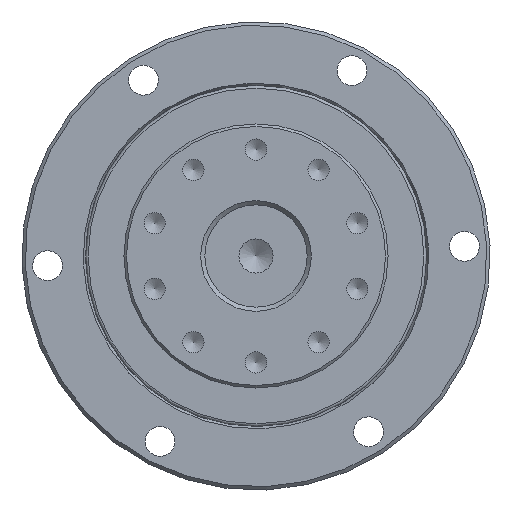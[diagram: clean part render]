
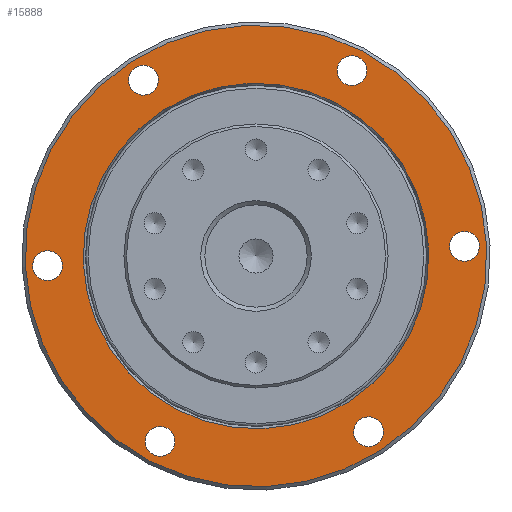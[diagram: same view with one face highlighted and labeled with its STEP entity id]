
A CAD part, left-side view. The second image highlights one B-rep face of the part: STEP entity #15888.
In plain terms, the highlighted planar face has unit normal (-1, 0, 0).
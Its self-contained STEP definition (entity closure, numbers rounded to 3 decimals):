
#11 = EDGE_LOOP ( 'NONE', ( #12843 ) ) ;
#661 = CARTESIAN_POINT ( 'NONE',  ( -16.954, 11.181, -23.506 ) ) ;
#908 = ORIENTED_EDGE ( 'NONE', *, *, #19773, .T. ) ;
#1050 = CARTESIAN_POINT ( 'NONE',  ( -16.954, -11.262, 21.758 ) ) ;
#1061 = CARTESIAN_POINT ( 'NONE',  ( -16.954, 24.394, -2.874 ) ) ;
#1989 = CARTESIAN_POINT ( 'NONE',  ( -16.954, 11.262, -21.758 ) ) ;
#2141 = AXIS2_PLACEMENT_3D ( 'NONE', #12652, #10921, #16331 ) ;
#2560 = FACE_BOUND ( 'NONE', #15958, .T. ) ;
#2700 = AXIS2_PLACEMENT_3D ( 'NONE', #11377, #3108, #19952 ) ;
#2782 = PLANE ( 'NONE',  #12416 ) ;
#3108 = DIRECTION ( 'NONE',  ( 1., 0., 0. ) ) ;
#3353 = AXIS2_PLACEMENT_3D ( 'NONE', #6988, #13825, #15354 ) ;
#3385 = CIRCLE ( 'NONE', #2700, 1.75 ) ;
#3583 = CIRCLE ( 'NONE', #18170, 1.75 ) ;
#3630 = EDGE_CURVE ( 'NONE', #16892, #16892, #6642, .T. ) ;
#3669 = VERTEX_POINT ( 'NONE', #5295 ) ;
#4075 = CARTESIAN_POINT ( 'NONE',  ( -16.954, 20.267, -0.932 ) ) ;
#4398 = DIRECTION ( 'NONE',  ( 1., 0., 0. ) ) ;
#5077 = AXIS2_PLACEMENT_3D ( 'NONE', #10483, #17099, #12014 ) ;
#5295 = CARTESIAN_POINT ( 'NONE',  ( -16.954, 1.246, 27.071 ) ) ;
#5709 = FACE_BOUND ( 'NONE', #19540, .T. ) ;
#5721 = VERTEX_POINT ( 'NONE', #1061 ) ;
#5792 = EDGE_LOOP ( 'NONE', ( #908 ) ) ;
#5963 = EDGE_CURVE ( 'NONE', #14703, #14703, #20008, .T. ) ;
#6642 = CIRCLE ( 'NONE', #2141, 1.75 ) ;
#6988 = CARTESIAN_POINT ( 'NONE',  ( -16.954, -13.212, -20.632 ) ) ;
#7660 = ORIENTED_EDGE ( 'NONE', *, *, #19010, .F. ) ;
#7785 = DIRECTION ( 'NONE',  ( 1., 0., 0. ) ) ;
#7993 = CIRCLE ( 'NONE', #14562, 1.75 ) ;
#8135 = EDGE_LOOP ( 'NONE', ( #9932 ) ) ;
#8884 = CARTESIAN_POINT ( 'NONE',  ( -16.954, 0.932, 20.267 ) ) ;
#9185 = FACE_OUTER_BOUND ( 'NONE', #5792, .T. ) ;
#9438 = DIRECTION ( 'NONE',  ( -1., 0., 0. ) ) ;
#9932 = ORIENTED_EDGE ( 'NONE', *, *, #20512, .T. ) ;
#10307 = VERTEX_POINT ( 'NONE', #8884 ) ;
#10483 = CARTESIAN_POINT ( 'NONE',  ( -16.954, 24.474, -1.126 ) ) ;
#10606 = DIRECTION ( 'NONE',  ( 0., -0.046, -0.999 ) ) ;
#10610 = ORIENTED_EDGE ( 'NONE', *, *, #12875, .T. ) ;
#10921 = DIRECTION ( 'NONE',  ( 1., 0., 0. ) ) ;
#11049 = FACE_BOUND ( 'NONE', #14370, .T. ) ;
#11085 = CARTESIAN_POINT ( 'NONE',  ( -16.954, 0., 0. ) ) ;
#11109 = EDGE_CURVE ( 'NONE', #12410, #12410, #3385, .T. ) ;
#11168 = DIRECTION ( 'NONE',  ( -1., 0., 0. ) ) ;
#11377 = CARTESIAN_POINT ( 'NONE',  ( -16.954, 13.212, 20.632 ) ) ;
#11602 = CIRCLE ( 'NONE', #20603, 27.1 ) ;
#11889 = DIRECTION ( 'NONE',  ( 1., 0., 0. ) ) ;
#12014 = DIRECTION ( 'NONE',  ( 0., -0.046, -0.999 ) ) ;
#12331 = CARTESIAN_POINT ( 'NONE',  ( -16.954, -24.555, -0.622 ) ) ;
#12356 = CIRCLE ( 'NONE', #5077, 1.75 ) ;
#12409 = ORIENTED_EDGE ( 'NONE', *, *, #11109, .T. ) ;
#12410 = VERTEX_POINT ( 'NONE', #14242 ) ;
#12416 = AXIS2_PLACEMENT_3D ( 'NONE', #4075, #4398, #10606 ) ;
#12652 = CARTESIAN_POINT ( 'NONE',  ( -16.954, -24.474, 1.126 ) ) ;
#12667 = DIRECTION ( 'NONE',  ( 0., -0.046, -0.999 ) ) ;
#12843 = ORIENTED_EDGE ( 'NONE', *, *, #3630, .T. ) ;
#12875 = EDGE_CURVE ( 'NONE', #18271, #18271, #7993, .T. ) ;
#12998 = DIRECTION ( 'NONE',  ( 0., 0.046, 0.999 ) ) ;
#13111 = ORIENTED_EDGE ( 'NONE', *, *, #5963, .T. ) ;
#13376 = CARTESIAN_POINT ( 'NONE',  ( -16.954, -11.342, 20.01 ) ) ;
#13582 = EDGE_LOOP ( 'NONE', ( #7660 ) ) ;
#13640 = CIRCLE ( 'NONE', #18166, 20.289 ) ;
#13825 = DIRECTION ( 'NONE',  ( 1., 0., 0. ) ) ;
#14242 = CARTESIAN_POINT ( 'NONE',  ( -16.954, 13.132, 18.884 ) ) ;
#14370 = EDGE_LOOP ( 'NONE', ( #12409 ) ) ;
#14562 = AXIS2_PLACEMENT_3D ( 'NONE', #1050, #7785, #12667 ) ;
#14693 = EDGE_CURVE ( 'NONE', #18487, #18487, #3583, .T. ) ;
#14703 = VERTEX_POINT ( 'NONE', #19713 ) ;
#15354 = DIRECTION ( 'NONE',  ( 0., -0.046, -0.999 ) ) ;
#15599 = FACE_BOUND ( 'NONE', #19105, .T. ) ;
#15888 = ADVANCED_FACE ( 'NONE', ( #11049, #5709, #19291, #15599, #2560, #17662, #17440, #9185 ), #2782, .F. ) ;
#15958 = EDGE_LOOP ( 'NONE', ( #20948 ) ) ;
#16331 = DIRECTION ( 'NONE',  ( 0., -0.046, -0.999 ) ) ;
#16755 = DIRECTION ( 'NONE',  ( 0., -0.046, -0.999 ) ) ;
#16892 = VERTEX_POINT ( 'NONE', #12331 ) ;
#17099 = DIRECTION ( 'NONE',  ( 1., 0., 0. ) ) ;
#17440 = FACE_BOUND ( 'NONE', #13582, .T. ) ;
#17662 = FACE_BOUND ( 'NONE', #8135, .T. ) ;
#17695 = DIRECTION ( 'NONE',  ( 0., 0.046, 0.999 ) ) ;
#18166 = AXIS2_PLACEMENT_3D ( 'NONE', #21166, #11168, #12998 ) ;
#18170 = AXIS2_PLACEMENT_3D ( 'NONE', #1989, #11889, #16755 ) ;
#18271 = VERTEX_POINT ( 'NONE', #13376 ) ;
#18487 = VERTEX_POINT ( 'NONE', #661 ) ;
#19010 = EDGE_CURVE ( 'NONE', #10307, #10307, #13640, .T. ) ;
#19105 = EDGE_LOOP ( 'NONE', ( #13111 ) ) ;
#19291 = FACE_BOUND ( 'NONE', #11, .T. ) ;
#19540 = EDGE_LOOP ( 'NONE', ( #10610 ) ) ;
#19713 = CARTESIAN_POINT ( 'NONE',  ( -16.954, -13.293, -22.38 ) ) ;
#19773 = EDGE_CURVE ( 'NONE', #3669, #3669, #11602, .T. ) ;
#19952 = DIRECTION ( 'NONE',  ( 0., -0.046, -0.999 ) ) ;
#20008 = CIRCLE ( 'NONE', #3353, 1.75 ) ;
#20512 = EDGE_CURVE ( 'NONE', #5721, #5721, #12356, .T. ) ;
#20603 = AXIS2_PLACEMENT_3D ( 'NONE', #11085, #9438, #17695 ) ;
#20948 = ORIENTED_EDGE ( 'NONE', *, *, #14693, .T. ) ;
#21166 = CARTESIAN_POINT ( 'NONE',  ( -16.954, 0., 0. ) ) ;
